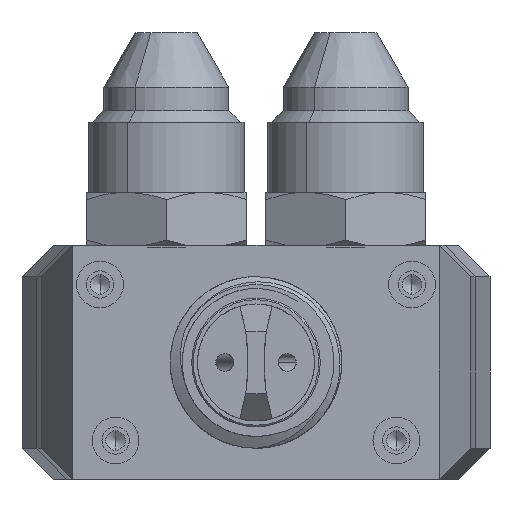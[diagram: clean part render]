
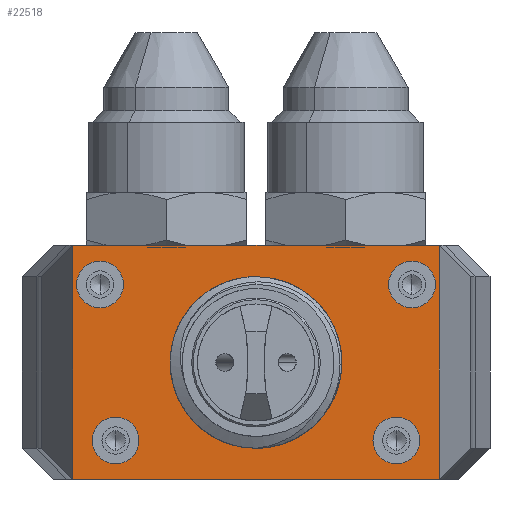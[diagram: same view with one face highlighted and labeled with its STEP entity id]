
A CAD part, front view. The second image highlights one B-rep face of the part: STEP entity #22518.
In plain terms, the highlighted planar face has unit normal (0, -1, 0).
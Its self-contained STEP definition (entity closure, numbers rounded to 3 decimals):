
#105 = EDGE_LOOP ( 'NONE', ( #5065, #30018 ) ) ;
#134 = CARTESIAN_POINT ( 'NONE',  ( 31.454, -100.02, 988.602 ) ) ;
#155 = ORIENTED_EDGE ( 'NONE', *, *, #40383, .T. ) ;
#2050 = AXIS2_PLACEMENT_3D ( 'NONE', #17457, #32630, #3759 ) ;
#2931 = DIRECTION ( 'NONE',  ( 0., 1., 0. ) ) ;
#2933 = CARTESIAN_POINT ( 'NONE',  ( -4.546, -100.02, 991.602 ) ) ;
#3759 = DIRECTION ( 'NONE',  ( 0., 0., 1. ) ) ;
#3865 = CIRCLE ( 'NONE', #28469, 9. ) ;
#4235 = VERTEX_POINT ( 'NONE', #23287 ) ;
#4510 = ORIENTED_EDGE ( 'NONE', *, *, #8513, .T. ) ;
#4755 = VERTEX_POINT ( 'NONE', #10282 ) ;
#5065 = ORIENTED_EDGE ( 'NONE', *, *, #42205, .F. ) ;
#5341 = DIRECTION ( 'NONE',  ( 0., 0., 1. ) ) ;
#5842 = VERTEX_POINT ( 'NONE', #24414 ) ;
#6106 = ORIENTED_EDGE ( 'NONE', *, *, #27113, .T. ) ;
#6871 = CARTESIAN_POINT ( 'NONE',  ( -10.043, -100.02, 983.602 ) ) ;
#7513 = VERTEX_POINT ( 'NONE', #29023 ) ;
#8089 = CARTESIAN_POINT ( 'NONE',  ( 13.454, -100.02, 1013.602 ) ) ;
#8167 = DIRECTION ( 'NONE',  ( 0., -1., 0. ) ) ;
#8308 = FACE_BOUND ( 'NONE', #33744, .T. ) ;
#8513 = EDGE_CURVE ( 'NONE', #4755, #18962, #16953, .T. ) ;
#9064 = ORIENTED_EDGE ( 'NONE', *, *, #13631, .F. ) ;
#9243 = CARTESIAN_POINT ( 'NONE',  ( 31.454, -100.02, 991.602 ) ) ;
#9432 = DIRECTION ( 'NONE',  ( 0., 0., 1. ) ) ;
#10086 = EDGE_CURVE ( 'NONE', #18962, #4755, #15636, .T. ) ;
#10282 = CARTESIAN_POINT ( 'NONE',  ( -6.546, -100.02, 1011.602 ) ) ;
#10539 = ORIENTED_EDGE ( 'NONE', *, *, #37670, .T. ) ;
#10688 = VERTEX_POINT ( 'NONE', #36352 ) ;
#10694 = EDGE_CURVE ( 'NONE', #47361, #7513, #32241, .T. ) ;
#10740 = EDGE_CURVE ( 'NONE', #7513, #47361, #16343, .T. ) ;
#11107 = VECTOR ( 'NONE', #9432, 1000. ) ;
#11918 = CARTESIAN_POINT ( 'NONE',  ( 13.454, -100.02, 998.602 ) ) ;
#12309 = DIRECTION ( 'NONE',  ( -1., 0., 0. ) ) ;
#12503 = CARTESIAN_POINT ( 'NONE',  ( -10.043, -100.02, 983.602 ) ) ;
#12543 = FACE_BOUND ( 'NONE', #37503, .T. ) ;
#13040 = VERTEX_POINT ( 'NONE', #6871 ) ;
#13289 = DIRECTION ( 'NONE',  ( 0., 0., 1. ) ) ;
#13380 = VERTEX_POINT ( 'NONE', #33445 ) ;
#13631 = EDGE_CURVE ( 'NONE', #13040, #41467, #39358, .T. ) ;
#13891 = CARTESIAN_POINT ( 'NONE',  ( 36.95, -100.02, 983.602 ) ) ;
#14362 = DIRECTION ( 'NONE',  ( 0., 0., 1. ) ) ;
#14512 = CIRCLE ( 'NONE', #41536, 3. ) ;
#14879 = ORIENTED_EDGE ( 'NONE', *, *, #10694, .T. ) ;
#14939 = DIRECTION ( 'NONE',  ( 0., 0., 1. ) ) ;
#15636 = CIRCLE ( 'NONE', #48190, 3. ) ;
#15823 = ORIENTED_EDGE ( 'NONE', *, *, #28519, .T. ) ;
#16016 = EDGE_CURVE ( 'NONE', #40210, #13380, #14512, .T. ) ;
#16222 = DIRECTION ( 'NONE',  ( -1., 0., 0. ) ) ;
#16343 = CIRCLE ( 'NONE', #29067, 3. ) ;
#16521 = FACE_BOUND ( 'NONE', #20510, .T. ) ;
#16524 = CARTESIAN_POINT ( 'NONE',  ( -6.546, -100.02, 1008.602 ) ) ;
#16658 = AXIS2_PLACEMENT_3D ( 'NONE', #39144, #41464, #30036 ) ;
#16755 = CARTESIAN_POINT ( 'NONE',  ( 13.454, -100.02, 1007.602 ) ) ;
#16953 = CIRCLE ( 'NONE', #44752, 3. ) ;
#17121 = EDGE_CURVE ( 'NONE', #5842, #41467, #19523, .T. ) ;
#17457 = CARTESIAN_POINT ( 'NONE',  ( -4.546, -100.02, 988.602 ) ) ;
#17602 = CARTESIAN_POINT ( 'NONE',  ( 33.454, -100.02, 1008.602 ) ) ;
#18031 = CIRCLE ( 'NONE', #25190, 3. ) ;
#18962 = VERTEX_POINT ( 'NONE', #28957 ) ;
#19141 = AXIS2_PLACEMENT_3D ( 'NONE', #134, #30708, #23243 ) ;
#19331 = EDGE_CURVE ( 'NONE', #10688, #13040, #47053, .T. ) ;
#19523 = LINE ( 'NONE', #8089, #26420 ) ;
#20493 = VECTOR ( 'NONE', #16222, 1000. ) ;
#20495 = CARTESIAN_POINT ( 'NONE',  ( 13.454, -100.02, 998.602 ) ) ;
#20510 = EDGE_LOOP ( 'NONE', ( #14879, #46635 ) ) ;
#21142 = CIRCLE ( 'NONE', #26735, 9. ) ;
#21572 = CARTESIAN_POINT ( 'NONE',  ( -6.546, -100.02, 1008.602 ) ) ;
#22518 = ADVANCED_FACE ( 'NONE', ( #27227, #8308, #12543, #16521, #27733, #23972 ), #23734, .F. ) ;
#22603 = EDGE_CURVE ( 'NONE', #4235, #43728, #21142, .T. ) ;
#23243 = DIRECTION ( 'NONE',  ( 0., 0., 1. ) ) ;
#23287 = CARTESIAN_POINT ( 'NONE',  ( 13.454, -100.02, 989.602 ) ) ;
#23488 = DIRECTION ( 'NONE',  ( 0., 1., 0. ) ) ;
#23734 = PLANE ( 'NONE',  #40185 ) ;
#23972 = FACE_OUTER_BOUND ( 'NONE', #47817, .T. ) ;
#24414 = CARTESIAN_POINT ( 'NONE',  ( 36.95, -100.02, 1013.602 ) ) ;
#24790 = EDGE_LOOP ( 'NONE', ( #49090, #155 ) ) ;
#25065 = CARTESIAN_POINT ( 'NONE',  ( 33.454, -100.02, 1011.602 ) ) ;
#25190 = AXIS2_PLACEMENT_3D ( 'NONE', #17602, #2931, #14362 ) ;
#25894 = CARTESIAN_POINT ( 'NONE',  ( -4.546, -100.02, 988.602 ) ) ;
#26420 = VECTOR ( 'NONE', #12309, 1000. ) ;
#26735 = AXIS2_PLACEMENT_3D ( 'NONE', #20495, #28221, #13289 ) ;
#27113 = EDGE_CURVE ( 'NONE', #33251, #37063, #37343, .T. ) ;
#27227 = FACE_BOUND ( 'NONE', #24790, .T. ) ;
#27733 = FACE_BOUND ( 'NONE', #105, .T. ) ;
#28221 = DIRECTION ( 'NONE',  ( 0., -1., 0. ) ) ;
#28469 = AXIS2_PLACEMENT_3D ( 'NONE', #11918, #8167, #39257 ) ;
#28519 = EDGE_CURVE ( 'NONE', #37063, #33251, #41374, .T. ) ;
#28957 = CARTESIAN_POINT ( 'NONE',  ( -6.546, -100.02, 1005.602 ) ) ;
#29023 = CARTESIAN_POINT ( 'NONE',  ( -4.546, -100.02, 985.602 ) ) ;
#29067 = AXIS2_PLACEMENT_3D ( 'NONE', #25894, #33609, #14939 ) ;
#30018 = ORIENTED_EDGE ( 'NONE', *, *, #22603, .F. ) ;
#30036 = DIRECTION ( 'NONE',  ( 0., 0., 1. ) ) ;
#30176 = CARTESIAN_POINT ( 'NONE',  ( 31.454, -100.02, 985.602 ) ) ;
#30708 = DIRECTION ( 'NONE',  ( 0., 1., 0. ) ) ;
#31187 = DIRECTION ( 'NONE',  ( 0., 1., 0. ) ) ;
#32040 = VECTOR ( 'NONE', #42848, 1000. ) ;
#32241 = CIRCLE ( 'NONE', #2050, 3. ) ;
#32588 = ORIENTED_EDGE ( 'NONE', *, *, #19331, .F. ) ;
#32630 = DIRECTION ( 'NONE',  ( 0., 1., 0. ) ) ;
#32796 = LINE ( 'NONE', #13891, #11107 ) ;
#32979 = CARTESIAN_POINT ( 'NONE',  ( -10.043, -100.02, 1013.602 ) ) ;
#33251 = VERTEX_POINT ( 'NONE', #9243 ) ;
#33273 = DIRECTION ( 'NONE',  ( 0., 1., 0. ) ) ;
#33445 = CARTESIAN_POINT ( 'NONE',  ( 33.454, -100.02, 1005.602 ) ) ;
#33609 = DIRECTION ( 'NONE',  ( 0., 1., 0. ) ) ;
#33744 = EDGE_LOOP ( 'NONE', ( #6106, #15823 ) ) ;
#35190 = DIRECTION ( 'NONE',  ( 0., 0., 1. ) ) ;
#35438 = CARTESIAN_POINT ( 'NONE',  ( 33.454, -100.02, 1008.602 ) ) ;
#36352 = CARTESIAN_POINT ( 'NONE',  ( 36.95, -100.02, 983.602 ) ) ;
#37063 = VERTEX_POINT ( 'NONE', #30176 ) ;
#37343 = CIRCLE ( 'NONE', #16658, 3. ) ;
#37503 = EDGE_LOOP ( 'NONE', ( #4510, #38228 ) ) ;
#37670 = EDGE_CURVE ( 'NONE', #10688, #5842, #32796, .T. ) ;
#38228 = ORIENTED_EDGE ( 'NONE', *, *, #10086, .T. ) ;
#38669 = CARTESIAN_POINT ( 'NONE',  ( 13.454, -100.02, 998.602 ) ) ;
#38876 = CARTESIAN_POINT ( 'NONE',  ( 13.454, -100.02, 983.602 ) ) ;
#39144 = CARTESIAN_POINT ( 'NONE',  ( 31.454, -100.02, 988.602 ) ) ;
#39257 = DIRECTION ( 'NONE',  ( 0., 0., 1. ) ) ;
#39358 = LINE ( 'NONE', #12503, #32040 ) ;
#40185 = AXIS2_PLACEMENT_3D ( 'NONE', #38669, #23488, #47100 ) ;
#40210 = VERTEX_POINT ( 'NONE', #25065 ) ;
#40383 = EDGE_CURVE ( 'NONE', #13380, #40210, #18031, .T. ) ;
#41374 = CIRCLE ( 'NONE', #19141, 3. ) ;
#41464 = DIRECTION ( 'NONE',  ( 0., 1., 0. ) ) ;
#41467 = VERTEX_POINT ( 'NONE', #32979 ) ;
#41536 = AXIS2_PLACEMENT_3D ( 'NONE', #35438, #42901, #35190 ) ;
#42205 = EDGE_CURVE ( 'NONE', #43728, #4235, #3865, .T. ) ;
#42848 = DIRECTION ( 'NONE',  ( 0., 0., 1. ) ) ;
#42901 = DIRECTION ( 'NONE',  ( 0., 1., 0. ) ) ;
#43728 = VERTEX_POINT ( 'NONE', #16755 ) ;
#44752 = AXIS2_PLACEMENT_3D ( 'NONE', #21572, #33273, #48420 ) ;
#46161 = ORIENTED_EDGE ( 'NONE', *, *, #17121, .T. ) ;
#46635 = ORIENTED_EDGE ( 'NONE', *, *, #10740, .T. ) ;
#47053 = LINE ( 'NONE', #38876, #20493 ) ;
#47100 = DIRECTION ( 'NONE',  ( 1., 0., 0. ) ) ;
#47361 = VERTEX_POINT ( 'NONE', #2933 ) ;
#47817 = EDGE_LOOP ( 'NONE', ( #32588, #10539, #46161, #9064 ) ) ;
#48190 = AXIS2_PLACEMENT_3D ( 'NONE', #16524, #31187, #5341 ) ;
#48420 = DIRECTION ( 'NONE',  ( 0., 0., 1. ) ) ;
#49090 = ORIENTED_EDGE ( 'NONE', *, *, #16016, .T. ) ;
